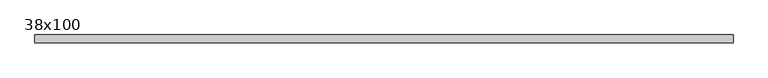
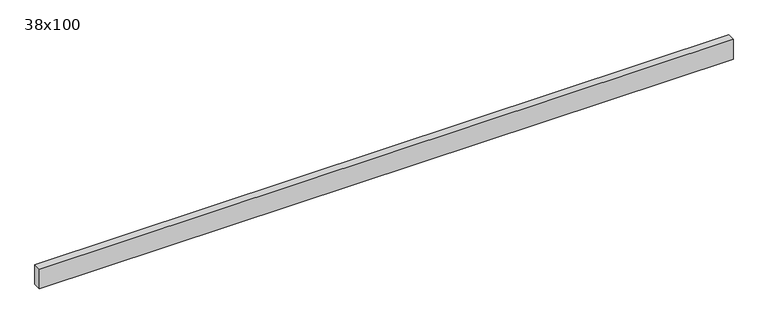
"""IFC4 building model written with IfcOpenShell, lengths in millimetres: beam geometry, Poutre - Bois de construction de dimensions courantes : 38x100."""

from ifc_helpers import new_model, si_unit, frame, origin, place, context, project, spatial, polyline, outline, extrude, source, transform, mapped, element, save


def beam_38x100_6c3dc052(model_context):
    return source(origin(), model_context, "Body", "SweptSolid", [
        extrude(outline(polyline([(1595.5, 19.05), (1595.5, -19.05), (-1755.5, -19.05), (-1755.5, 19.05), (1595.5, 19.05)])), frame((0.0, 0.0, -50.0), z_axis=(0.0, 0.0, 1.0), x_axis=(1.0, 0.0, 0.0)), (0.0, 0.0, 1.0), 100.0),
    ])


if __name__ == "__main__":
    model = new_model("IFC4")
    model_context = context("Model", 3, world=origin())
    ifc_project = project(units=[si_unit("LENGTHUNIT", "METRE", prefix="MILLI")], contexts=[model_context])
    site = spatial("IfcSite", under=ifc_project)
    building = spatial("IfcBuilding", under=site)
    placement = place(None, origin())
    beam_38x100_shape = beam_38x100_6c3dc052(model_context)
    element("IfcBeam", 1, ObjectType="Poutre - Bois de construction de dimensions courantes : 38x100", at=placement, inside=building, context=model_context, shape_type="MappedRepresentation", body=[
        mapped(beam_38x100_shape, transform((0.0, 0.0, 0.0), x_axis=(1.0, 0.0, 0.0), y_axis=(0.0, 1.0, 0.0), z_axis=(0.0, 0.0, 1.0))),
    ])
    save(model, "model.ifc")
